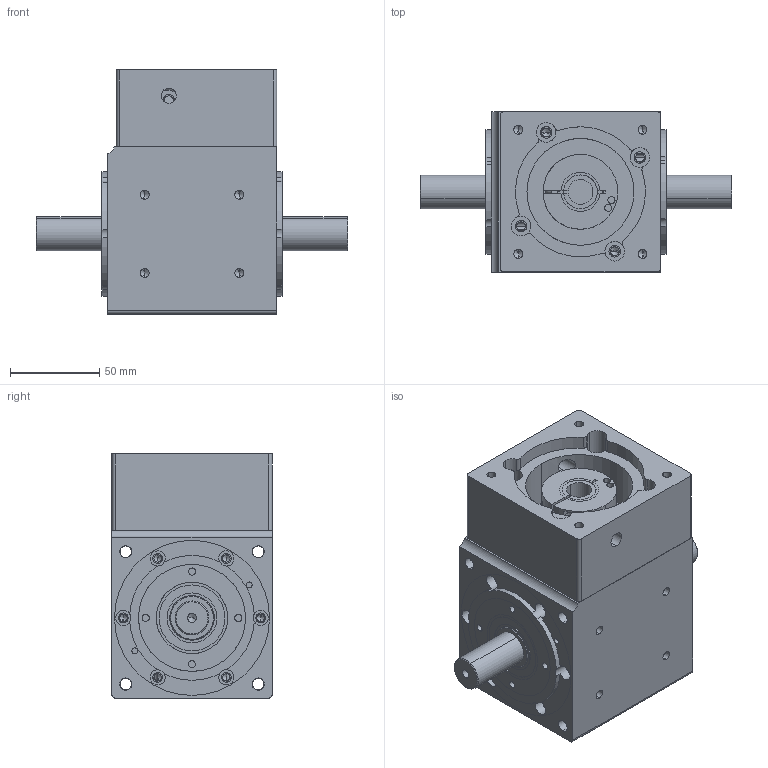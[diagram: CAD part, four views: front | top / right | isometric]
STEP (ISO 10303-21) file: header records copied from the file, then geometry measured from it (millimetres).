
FILE_DESCRIPTION (( 'STEP AP203' ), '1' );
FILE_NAME ('PVFH090邧粣蚾饜芞 ( 祭輛).STEP', '2020-11-20T01:30:20', ( 'User' ), ( 'China' ), 'SwSTEP 2.0', 'SolidWorks 2015', '' );
FILE_SCHEMA (( 'CONFIG_CONTROL_DESIGN' ));
Length unit declared in the file: millimetre
Products named in the file (12): 25-40-7蚐猾; PVFDo9o眊极; PVFD090后法兰（步进）; PVFD090͹̨; 19-14粣杶; deep groove ball bearings gb_Rolling bearings 6005 GB 276-94; PVFH090邧粣蚾饜芞   ( 祭輛); tapered roller bearings gb_Rolling bearings 32005 GB 297-94; PVFD090標杶; PVFD090蹟譫; PVFD090输入轴; ZK090怀堤粣
Assembly tree (15 placements, depth 2):
  PVFH090邧粣蚾饜芞   ( 祭輛)
    PVFDo9o眊极
    PVFD090͹̨  x2
    deep groove ball bearings gb_Rolling bearings 6005 GB 276-94  x2
    tapered roller bearings gb_Rolling bearings 32005 GB 297-94
    PVFD090標杶
    PVFD090蹟譫  x2
    PVFD090输入轴
    ZK090怀堤粣
    25-40-7蚐猾  x2
    PVFD090后法兰（步进）
    19-14粣杶
Bounding box: 175 x 90 x 137 mm (x, y, z)
Volume: 852266.6 mm3; surface area: 240161.7 mm2
Topology: 15 solids, 15 shells, 1000 faces, 3396 edges, 2204 vertices
Faces by surface type: cylinder 381, torus 224, plane 175, cone 144, sphere 76
Entity records: 33358 total; most frequent: CARTESIAN_POINT 10733, ORIENTED_EDGE 4754, DIRECTION 4332, EDGE_CURVE 2377, AXIS2_PLACEMENT_3D 1912, VERTEX_POINT 1559, CIRCLE 1114, EDGE_LOOP 950
